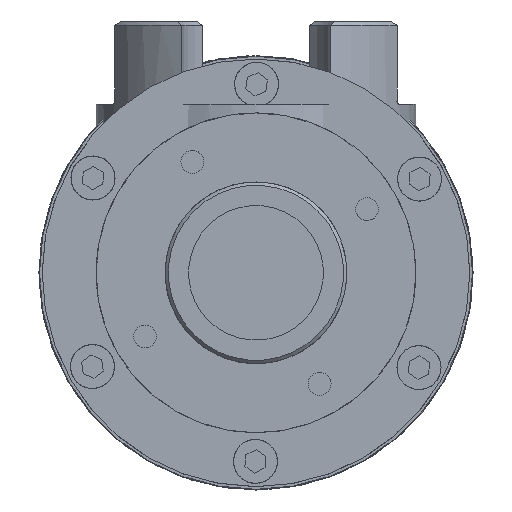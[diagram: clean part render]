
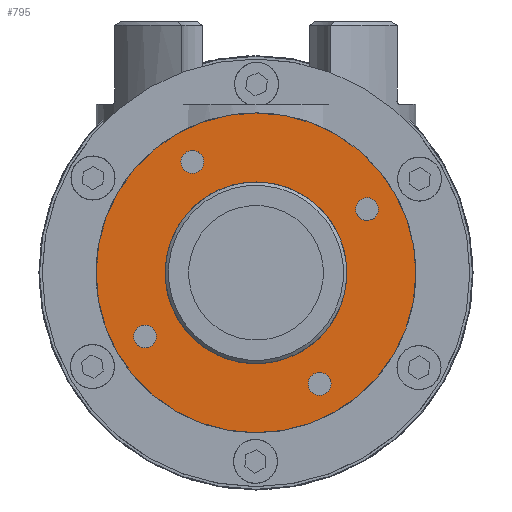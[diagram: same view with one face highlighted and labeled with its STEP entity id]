
A CAD part, left-side view. The second image highlights one B-rep face of the part: STEP entity #795.
In plain terms, the highlighted planar face has unit normal (-1, 0, 0) as drawn and (0, -1, 0) by its records, which use the part's own axes.
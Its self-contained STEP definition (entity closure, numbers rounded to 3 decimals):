
#795 = ADVANCED_FACE( '', ( #1681, #1682, #1683, #1684, #1685, #1686 ), #1687, .F. );
#1681 = FACE_OUTER_BOUND( '', #2694, .T. );
#1682 = FACE_BOUND( '', #2695, .T. );
#1683 = FACE_BOUND( '', #2696, .T. );
#1684 = FACE_BOUND( '', #2697, .T. );
#1685 = FACE_BOUND( '', #2698, .T. );
#1686 = FACE_BOUND( '', #2699, .T. );
#1687 = PLANE( '', #2700 );
#2694 = EDGE_LOOP( '', ( #4845 ) );
#2695 = EDGE_LOOP( '', ( #4846 ) );
#2696 = EDGE_LOOP( '', ( #4847 ) );
#2697 = EDGE_LOOP( '', ( #4848 ) );
#2698 = EDGE_LOOP( '', ( #4849 ) );
#2699 = EDGE_LOOP( '', ( #4850 ) );
#2700 = AXIS2_PLACEMENT_3D( '', #4851, #4852, #4853 );
#4845 = ORIENTED_EDGE( '', *, *, #6035, .T. );
#4846 = ORIENTED_EDGE( '', *, *, #6044, .F. );
#4847 = ORIENTED_EDGE( '', *, *, #6045, .F. );
#4848 = ORIENTED_EDGE( '', *, *, #6036, .F. );
#4849 = ORIENTED_EDGE( '', *, *, #6042, .F. );
#4850 = ORIENTED_EDGE( '', *, *, #6043, .F. );
#4851 = CARTESIAN_POINT( '', ( 0., 0., 47.5 ) );
#4852 = DIRECTION( '', ( 0., 1., 0. ) );
#4853 = DIRECTION( '', ( 1., 0., 0. ) );
#6035 = EDGE_CURVE( '', #7131, #7131, #7132, .T. );
#6036 = EDGE_CURVE( '', #7133, #7133, #7134, .T. );
#6042 = EDGE_CURVE( '', #7145, #7145, #7146, .T. );
#6043 = EDGE_CURVE( '', #7147, #7147, #7148, .T. );
#6044 = EDGE_CURVE( '', #7149, #7149, #7150, .T. );
#6045 = EDGE_CURVE( '', #7151, #7151, #7152, .T. );
#7131 = VERTEX_POINT( '', #9013 );
#7132 = CIRCLE( '', #9014, 47.5 );
#7133 = VERTEX_POINT( '', #9015 );
#7134 = CIRCLE( '', #9016, 3.4 );
#7145 = VERTEX_POINT( '', #9027 );
#7146 = CIRCLE( '', #9028, 3.4 );
#7147 = VERTEX_POINT( '', #9029 );
#7148 = CIRCLE( '', #9030, 27. );
#7149 = VERTEX_POINT( '', #9031 );
#7150 = CIRCLE( '', #9032, 3.4 );
#7151 = VERTEX_POINT( '', #9033 );
#7152 = CIRCLE( '', #9034, 3.4 );
#9013 = CARTESIAN_POINT( '', ( 0., 0., -47.5 ) );
#9014 = AXIS2_PLACEMENT_3D( '', #10648, #10649, #10650 );
#9015 = CARTESIAN_POINT( '', ( 38., 0., -3.4 ) );
#9016 = AXIS2_PLACEMENT_3D( '', #10651, #10652, #10653 );
#9027 = CARTESIAN_POINT( '', ( 3.4, 0., 38. ) );
#9028 = AXIS2_PLACEMENT_3D( '', #10669, #10670, #10671 );
#9029 = CARTESIAN_POINT( '', ( 0., 0., -27. ) );
#9030 = AXIS2_PLACEMENT_3D( '', #10672, #10673, #10674 );
#9031 = CARTESIAN_POINT( '', ( -38., 0., 3.4 ) );
#9032 = AXIS2_PLACEMENT_3D( '', #10675, #10676, #10677 );
#9033 = CARTESIAN_POINT( '', ( -3.4, 0., -38. ) );
#9034 = AXIS2_PLACEMENT_3D( '', #10678, #10679, #10680 );
#10648 = CARTESIAN_POINT( '', ( 0., 0., 0. ) );
#10649 = DIRECTION( '', ( 0., -1., 0. ) );
#10650 = DIRECTION( '', ( 0., 0., -1. ) );
#10651 = CARTESIAN_POINT( '', ( 38., 0., 0. ) );
#10652 = DIRECTION( '', ( 0., -1., 0. ) );
#10653 = DIRECTION( '', ( 0., 0., -1. ) );
#10669 = CARTESIAN_POINT( '', ( 0., 0., 38. ) );
#10670 = DIRECTION( '', ( 0., -1., 0. ) );
#10671 = DIRECTION( '', ( 1., 0., 0. ) );
#10672 = CARTESIAN_POINT( '', ( 0., 0., 0. ) );
#10673 = DIRECTION( '', ( 0., -1., 0. ) );
#10674 = DIRECTION( '', ( 0., 0., -1. ) );
#10675 = CARTESIAN_POINT( '', ( -38., 0., 0. ) );
#10676 = DIRECTION( '', ( 0., -1., 0. ) );
#10677 = DIRECTION( '', ( 0., 0., 1. ) );
#10678 = CARTESIAN_POINT( '', ( 0., 0., -38. ) );
#10679 = DIRECTION( '', ( 0., -1., 0. ) );
#10680 = DIRECTION( '', ( -1., 0., 0. ) );
